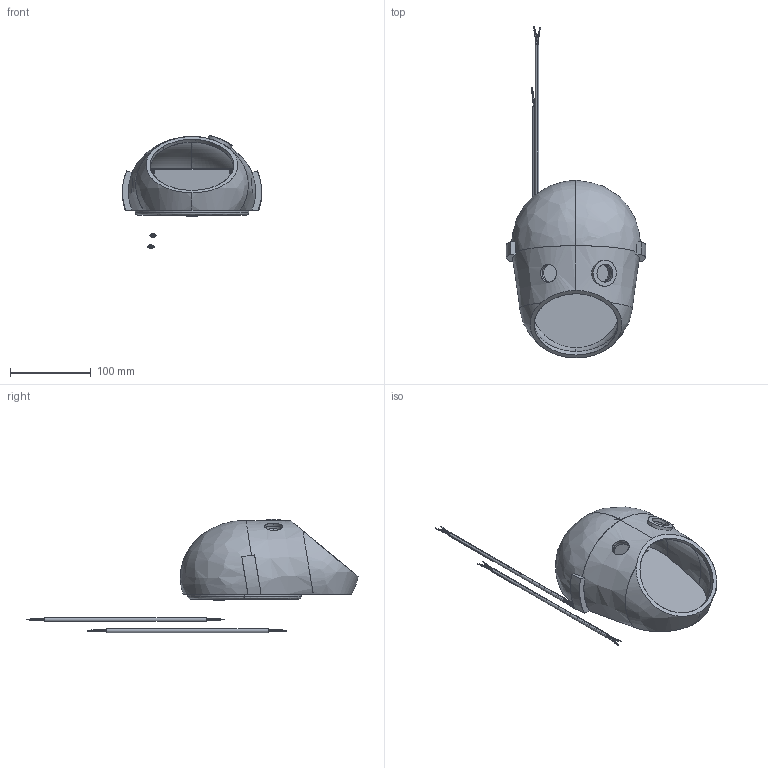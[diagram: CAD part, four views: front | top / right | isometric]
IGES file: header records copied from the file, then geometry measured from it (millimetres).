
Start section: SolidWorks IGES file using analytic representation for surfaces
Global section: file name: C:\Moooi\01_PRODUCTS\LI_Lighting Decorative\LI150 Orthenaartjes\11_Export\A000926_Creations_THE MAYOR_19-10-2018.igs; native system: SolidWorks 2017; preprocessor: SolidWorks 2017; author: Nataliajaskowska; date: 181019.092245; units: millimetre
Bounding box: 171.98 x 409.92 x 139.75 mm (x, y, z)
Surface area: 279112.7 mm2 (no closed solid volume)
Topology: 0 solids, 0 shells, 1736 faces, 20568 edges, 20543 vertices
Faces by surface type: bspline 1116, revolution 620
